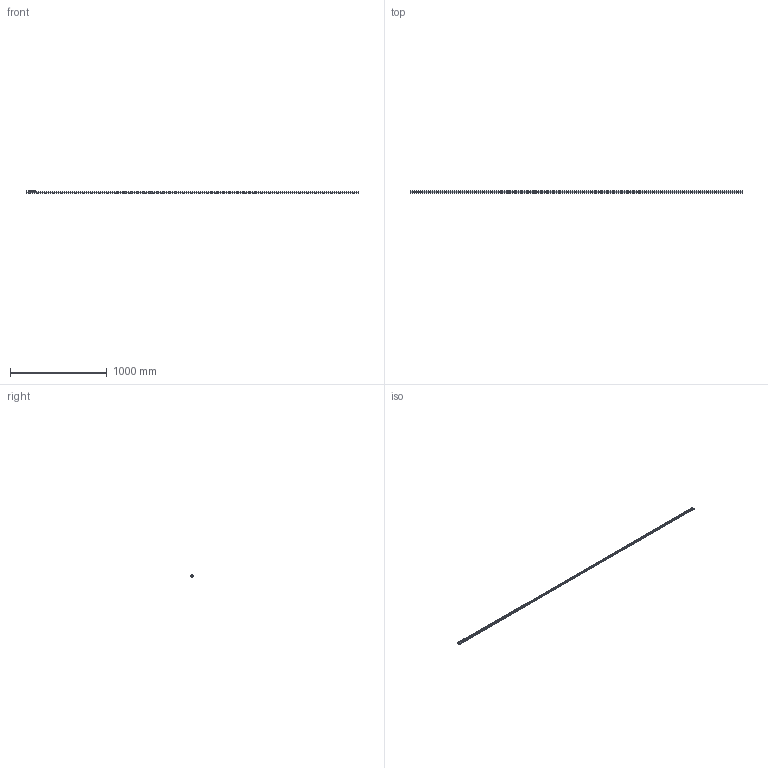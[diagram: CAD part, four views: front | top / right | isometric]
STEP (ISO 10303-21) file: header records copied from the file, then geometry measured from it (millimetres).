
FILE_DESCRIPTION( ( 'STEP AP214' ), '1' );
FILE_NAME( 'p:/temp/worker_22/temp/exporttempdir_5640_315_BExde/format_0/TEN26-3440-CEN26-92.stp', '2020-05-08T18:55:16', ( 'License CC BY-ND 4.0' ), ( 'CADENAS' ), ' ', 'PARTsolutions', ' ' );
FILE_SCHEMA( ( 'AUTOMOTIVE_DESIGN { 1 0 10303 214 1 1 1 1 }' ) );
Length unit declared in the file: millimetre
Products named in the file (6): TEN26-3440-CEN26-92; _TEN 26-3440; _CEN26-92_1; _RLN26(11.2_M5); _RLA26(11.2_M5); _LAN-26
Assembly tree (8 placements, depth 2):
  TEN26-3440-CEN26-92
    _TEN 26-3440
    _CEN26-92_1
    _RLN26(11.2_M5)  x2
    _RLA26(11.2_M5)
    _LAN-26  x3
Bounding box: 3440 x 26 x 22 mm (x, y, z)
Volume: 368353.1 mm3; surface area: 312734.4 mm2
Topology: 8 solids, 8 shells, 276 faces, 630 edges, 397 vertices
Faces by surface type: plane 131, cylinder 112, cone 24, bspline 9
Full cylindrical faces by diameter (mm): 2.5 x2, 4.134 x5, 4.5 x3, 5 x6, 6.5 x43, 9.3 x3, 11.2 x6, 11.6 x6, 15.7 x6, 16.7 x6
Entity records: 7064 total; most frequent: CARTESIAN_POINT 1000, DIRECTION 970, ORIENTED_EDGE 706, AXIS2_PLACEMENT_3D 421, EDGE_LOOP 404, EDGE_CURVE 353, VERTEX_POINT 283, FACE_OUTER_BOUND 270
